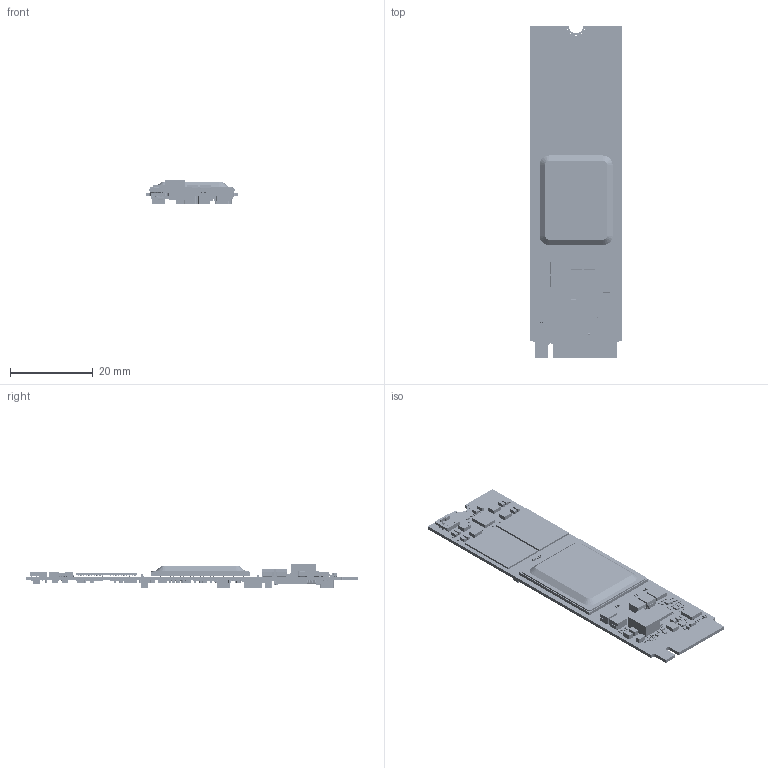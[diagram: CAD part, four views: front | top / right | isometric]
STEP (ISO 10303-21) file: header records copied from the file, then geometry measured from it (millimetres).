
FILE_DESCRIPTION(('Open CASCADE Model'),'2;1');
FILE_NAME('Open CASCADE Shape Model','2025-12-01T15:42:00',('Author'),( 'Open CASCADE'),'Open CASCADE STEP processor 7.5','Open CASCADE 7.5' ,'Unknown');
FILE_SCHEMA(('AUTOMOTIVE_DESIGN { 1 0 10303 214 1 1 1 1 }'));
Length unit declared in the file: millimetre
Products named in the file (712): PCB; Board; Open CASCADE STEP translator 7.5 1.1.1; R23; R_0201; R22; R21; R20; R_0402; R19; R18; R17; R16; C12; C_0402; C11; C_0201; C10; C9; B2; mold-B2; flame-B2; U3; 895669152; Extruded; RA6; R15; R14; R13; R12; R11; R10; R9; R8; C8; C7; C6; C5; CA10; SMD CAPACITOR_0201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
Assembly tree (1298 placements, depth 5):
  PCB
    Board
      Open CASCADE STEP translator 7.5 1.1.1
    R23
      R_0201
    R22
      R_0201
    R21
      R_0201
    R20
      R_0402
    R19
      R_0201
    R18
      R_0201
    R17
      R_0201
    R16
      R_0201
    C12
      C_0402
    C11
      C_0201
    C10
      C_0201
    C9
      B2
        mold-B2
        flame-B2  x2
    U3
      895669152
        Extruded
    RA6
      R_0201
    R15
      R_0402
    R14
      R_0402
    R13
      R_0201
    R12
      R_0201
    R11
      R_0201
    R10
      R_0201
    R9
      R_0201
    R8
      R_0201
    C8
      B2
        mold-B2
        flame-B2  x2
    C7
      B2
        mold-B2
        flame-B2  x2
    C6
      B2
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Bounding box: 22 x 80 x 5.76 mm (x, y, z)
Volume: 2912.3 mm3; surface area: 11348.6 mm2
Topology: 2592 solids, 2592 shells, 29358 faces, 69511 edges, 39268 vertices
Faces by surface type: plane 16126, cylinder 7624, sphere 4518, bspline 588, torus 494, cone 8
Full cylindrical faces by diameter (mm): 0.06 x1, 0.067 x1, 0.1 x1, 0.124 x1, 0.173 x1, 0.204 x1, 0.225 x1, 0.3 x5, 0.351 x1, 0.505 x2, 0.625 x2
Entity records: 194185 total; most frequent: CARTESIAN_POINT 31348, DIRECTION 28070, ORIENTED_EDGE 23640, EDGE_CURVE 11820, AXIS2_PLACEMENT_3D 9852, VERTEX_POINT 8422, LINE 8366, VECTOR 8366
